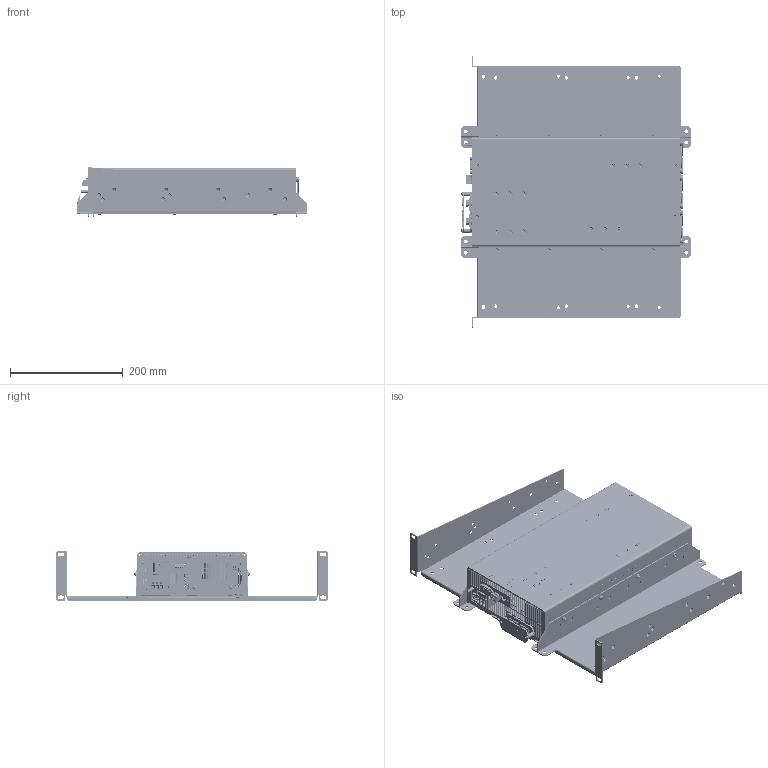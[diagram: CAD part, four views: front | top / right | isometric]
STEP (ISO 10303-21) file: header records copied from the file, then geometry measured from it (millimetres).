
FILE_DESCRIPTION(/* description */ (''),/* implementation_level */ '2;1');
FILE_NAME(/* name */ 'ODS-3000_p',/* time_stamp */ '2022-03-07T11:19:34+01:00',/* author */ ('A. Sanz'),/* organization */ ('Premium S.A.'),/* preprocessor_version */ 'ST-DEVELOPER v18.1',/* originating_system */ 'Solid Edge',/* authorisation */ 'Unknown');
FILE_SCHEMA (('AUTOMOTIVE_DESIGN {1 0 10303 214 3 1 1}'));
Products named in the file (6): ODS-3000; NP-9353; NP-9282_Int; NP-9282_Ext; 2601409
Assembly tree (5 placements, depth 2):
  ODS-3000
    ODS-3000
    NP-9353
    NP-9282_Int
    NP-9282_Ext
    2601409
Bounding box: 408.11 x 482.6 x 88.37 mm (x, y, z)
Volume: 2147911.5 mm3; surface area: 1810660.1 mm2
Topology: 192 solids, 192 shells, 15160 faces, 40425 edges, 26596 vertices
Faces by surface type: plane 9955, cylinder 2594, bspline 1974, cone 421, sphere 122, torus 94
Full cylindrical faces by diameter (mm): 0.264 x1, 0.296 x1, 0.457 x3, 0.5 x5, 0.6 x45, 0.62 x13, 0.7 x5, 0.765 x3, 0.8 x128, 1 x219, 1.1 x5, 1.2 x10, 1.25 x10, 1.3 x18, 1.5 x60, 1.6 x6, 1.7 x37, 1.79 x36, 1.8 x4, 2 x15, 2.013 x2, 2.1 x1, 2.3 x2, 2.4 x3, 2.459 x31, 2.5 x12, 2.7 x2, 2.8 x4, 2.9 x4, 3 x44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
Entity records: 586261 total; most frequent: CARTESIAN_POINT 144448, ORIENTED_EDGE 75076, DIRECTION 66660, EDGE_CURVE 37538, LINE 27542, VECTOR 27542, VERTEX_POINT 25603, FACE_BOUND 19801
